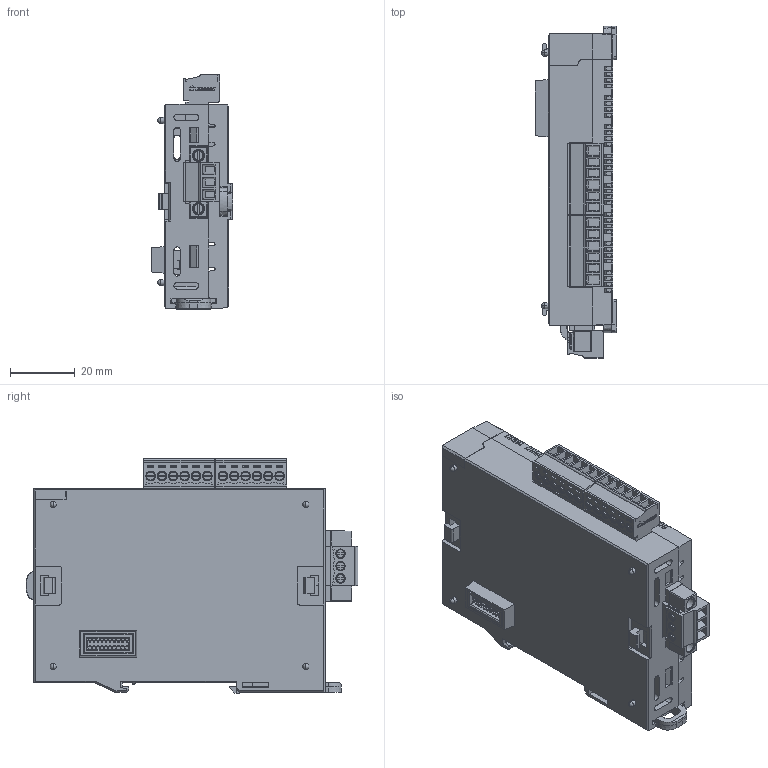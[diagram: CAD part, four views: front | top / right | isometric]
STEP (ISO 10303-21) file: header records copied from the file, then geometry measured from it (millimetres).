
FILE_DESCRIPTION (( 'STEP AP203' ), '1' );
FILE_NAME ('CM3-SP04EAO(SP04EAO-A)(SP04EAA-A)(SP04EAA)(SP04EAM)(SP04EAA0-E)(SP04EAO-E)_目池磐 器窃.STEP', '2025-10-20T06:54:14', ( '' ), ( '' ), 'SwSTEP 2.0', 'SolidWorks 2024', '' );
FILE_SCHEMA (( 'CONFIG_CONTROL_DESIGN' ));
Products named in the file (1): CM3-SP04EAO(SP04EAO-A)(SP04EAA-A)(SP04EAA)(SP04EAM)(SP04EAA0-E)(SP04EAO-E)_커넥터 포함
Bounding box: 25.2 x 102.45 x 72.3 mm (x, y, z)
Volume: 37364.8 mm3; surface area: 49466.1 mm2
Topology: 1 solids, 9 shells, 6399 faces, 17714 edges, 11467 vertices
Faces by surface type: plane 5395, cylinder 639, torus 196, cone 90, bspline 57, sphere 22
Entity records: 202836 total; most frequent: CARTESIAN_POINT 40283, ORIENTED_EDGE 35372, DIRECTION 30942, EDGE_CURVE 17686, VECTOR 14964, LINE 14964, VERTEX_POINT 11455, AXIS2_PLACEMENT_3D 7989
